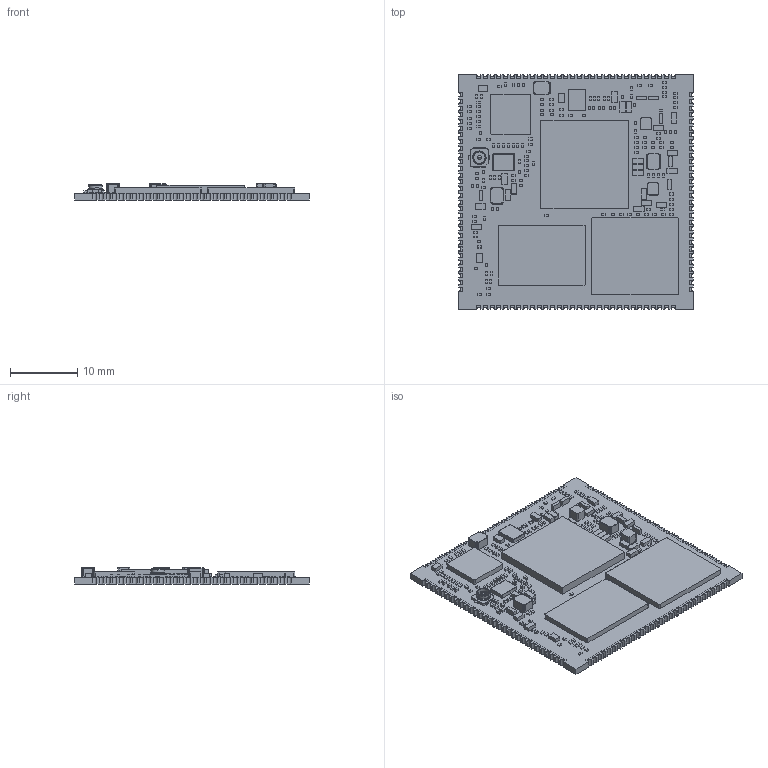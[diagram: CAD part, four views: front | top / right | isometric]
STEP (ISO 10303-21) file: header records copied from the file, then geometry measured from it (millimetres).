
FILE_DESCRIPTION((''),'2;1');
FILE_NAME('3308CORE_V21_20240312_BOARDANDM_ASM','2024-03-26T11:07:30',('admin'),(''),'CREO PARAMETRIC BY PTC INC, 2023424','CREO PARAMETRIC BY PTC INC, 2023424','');
FILE_SCHEMA(('CONFIG_CONTROL_DESIGN','SHAPE_APPEARANCE_LAYERS_GROUPS'));
Products named in the file (10): S_CORE_PCBA; PR0001; CORE_PCBA_ASM; MICRO-RFB01-H10-01_3_2; MICRO-RFB01-S10-02_1_2; MICRO-RFB01-T00-03_3_2; MICRO-RFB01-A10-00_ASM_3_ASM_2_ASM; MICRO-RFB01-A10-00_ASM_ASM_2_ASM; MICRO-RFB01_ASM; 3308CORE_V21_20240312_BOARDANDM_ASM
Assembly tree (9 placements, depth 5):
  3308CORE_V21_20240312_BOARDANDM_ASM
    CORE_PCBA_ASM
      S_CORE_PCBA
      PR0001
    MICRO-RFB01_ASM
      MICRO-RFB01-A10-00_ASM_ASM_2_ASM
        MICRO-RFB01-A10-00_ASM_3_ASM_2_ASM
          MICRO-RFB01-H10-01_3_2
          MICRO-RFB01-S10-02_1_2
          MICRO-RFB01-T00-03_3_2
Bounding box: 35 x 35 x 2.4 mm (x, y, z)
Volume: 1720.8 mm3; surface area: 4192.4 mm2
Topology: 312 solids, 312 shells, 2472 faces, 5371 edges, 3521 vertices
Faces by surface type: plane 1931, cylinder 439, bspline 48, torus 43, cone 7, sphere 4
Entity records: 87108 total; most frequent: CARTESIAN_POINT 14861, DIRECTION 10969, ORIENTED_EDGE 10734, EDGE_CURVE 5367, PRESENTATION_STYLE_ASSIGNMENT 5193, STYLED_ITEM 5193, CURVE_STYLE 4884, VECTOR 4353
